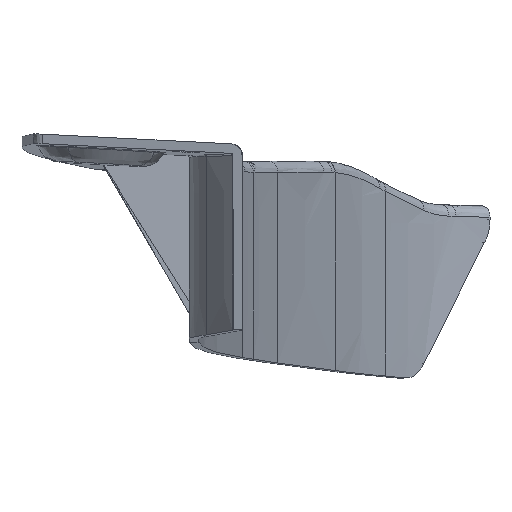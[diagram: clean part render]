
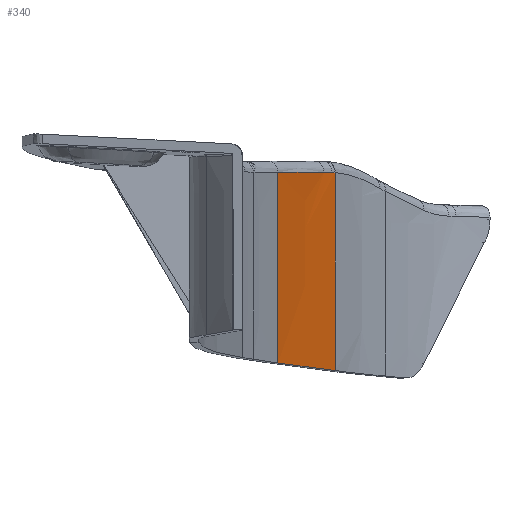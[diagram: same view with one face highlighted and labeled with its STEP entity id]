
A CAD part, front view. The second image highlights one B-rep face of the part: STEP entity #340.
In plain terms, the highlighted face is a extrusion surface.
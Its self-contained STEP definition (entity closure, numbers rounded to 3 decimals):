
#74=SURFACE_OF_LINEAR_EXTRUSION('',#1009,#2628);
#340=ADVANCED_FACE('',(#501),#74,.F.);
#501=FACE_OUTER_BOUND('',#667,.T.);
#667=EDGE_LOOP('',(#1748,#1749,#1750,#1751,#1752,#1753,#1754));
#867=B_SPLINE_CURVE_WITH_KNOTS('',3,(#7128,#7129,#7130,#7131,#7132,#7133,
#7134,#7135,#7136,#7137,#7138,#7139,#7140,#7141,#7142,#7143,#7144,#7145,
#7146,#7147,#7148,#7149,#7150,#7151,#7152,#7153,#7154,#7155,#7156,#7157,
#7158,#7159,#7160),.UNSPECIFIED.,.F.,.F.,(4,2,2,2,2,2,1,1,2,2,2,2,2,1,2,
2,2,4),(0.,0.5,0.563,0.594,0.602,
0.609,0.617,0.621,0.623,0.625,
0.688,0.719,0.734,0.742,
0.746,0.75,0.875,1.),.UNSPECIFIED.);
#981=B_SPLINE_CURVE_WITH_KNOTS('',3,(#13059,#13060,#13061,#13062,#13063,
#13064,#13065,#13066,#13067,#13068,#13069,#13070),.UNSPECIFIED.,.F.,.F.,
(4,2,2,2,2,4),(0.,0.062,0.125,0.25,
0.5,1.),.UNSPECIFIED.);
#984=B_SPLINE_CURVE_WITH_KNOTS('',3,(#13304,#13305,#13306,#13307),
 .UNSPECIFIED.,.F.,.F.,(4,4),(0.,1.),.UNSPECIFIED.);
#986=B_SPLINE_CURVE_WITH_KNOTS('',5,(#13372,#13373,#13374,#13375,#13376,
#13377,#13378,#13379,#13380,#13381,#13382,#13383),.UNSPECIFIED.,.F.,.F.,
(6,3,3,6),(0.,0.089,0.393,1.),.UNSPECIFIED.);
#1008=B_SPLINE_CURVE_WITH_KNOTS('',5,(#15282,#15283,#15284,#15285,#15286,
#15287),.UNSPECIFIED.,.F.,.F.,(6,6),(0.,1.),.UNSPECIFIED.);
#1009=B_SPLINE_CURVE_WITH_KNOTS('',5,(#15290,#15291,#15292,#15293,#15294,
#15295,#15296,#15297,#15298,#15299,#15300,#15301,#15302,#15303,#15304,#15305,
#15306,#15307,#15308,#15309,#15310,#15311,#15312,#15313),.UNSPECIFIED.,
 .F.,.F.,(6,3,3,3,3,3,3,6),(0.,0.016,0.031,0.063,
0.125,0.25,0.5,1.),.UNSPECIFIED.);
#1748=ORIENTED_EDGE('',*,*,#2464,.T.);
#1749=ORIENTED_EDGE('',*,*,#2437,.T.);
#1750=ORIENTED_EDGE('',*,*,#2440,.T.);
#1751=ORIENTED_EDGE('',*,*,#2442,.T.);
#1752=ORIENTED_EDGE('',*,*,#2463,.F.);
#1753=ORIENTED_EDGE('',*,*,#2303,.T.);
#1754=ORIENTED_EDGE('',*,*,#2465,.T.);
#1993=VERTEX_POINT('',#7127);
#1994=VERTEX_POINT('',#7161);
#2068=VERTEX_POINT('',#13058);
#2069=VERTEX_POINT('',#13071);
#2070=VERTEX_POINT('',#13303);
#2071=VERTEX_POINT('',#13371);
#2079=VERTEX_POINT('',#15288);
#2303=EDGE_CURVE('',#1994,#1993,#867,.T.);
#2437=EDGE_CURVE('',#2069,#2068,#981,.T.);
#2440=EDGE_CURVE('',#2068,#2070,#984,.T.);
#2442=EDGE_CURVE('',#2070,#2071,#986,.T.);
#2463=EDGE_CURVE('',#1994,#2071,#2545,.T.);
#2464=EDGE_CURVE('',#2079,#2069,#1008,.T.);
#2465=EDGE_CURVE('',#1993,#2079,#2546,.T.);
#2545=LINE('',#15263,#2625);
#2546=LINE('',#15289,#2627);
#2625=VECTOR('',#2875,1.);
#2627=VECTOR('',#2877,1.);
#2628=VECTOR('',#2878,1.);
#2875=DIRECTION('',(0.,0.,1.));
#2877=DIRECTION('',(0.,0.,1.));
#2878=DIRECTION('',(0.,0.,1.));
#7127=CARTESIAN_POINT('',(1323.568,-583.526,254.645));
#7128=CARTESIAN_POINT('',(1308.505,-619.64,256.647));
#7129=CARTESIAN_POINT('',(1310.664,-613.801,256.337));
#7130=CARTESIAN_POINT('',(1313.012,-607.773,256.004));
#7131=CARTESIAN_POINT('',(1315.844,-600.943,255.611));
#7132=CARTESIAN_POINT('',(1316.152,-600.207,255.569));
#7133=CARTESIAN_POINT('',(1316.664,-598.991,255.498));
#7134=CARTESIAN_POINT('',(1316.833,-598.589,255.476));
#7135=CARTESIAN_POINT('',(1317.043,-598.096,255.446));
#7136=CARTESIAN_POINT('',(1317.085,-597.998,255.44));
#7137=CARTESIAN_POINT('',(1317.168,-597.8,255.428));
#7138=CARTESIAN_POINT('',(1317.186,-597.758,255.426));
#7139=CARTESIAN_POINT('',(1317.258,-597.591,255.416));
#7140=CARTESIAN_POINT('',(1317.32,-597.444,255.408));
#7141=CARTESIAN_POINT('',(1317.409,-597.236,255.397));
#7142=CARTESIAN_POINT('',(1317.45,-597.139,255.392));
#7143=CARTESIAN_POINT('',(1317.479,-597.073,255.389));
#7144=CARTESIAN_POINT('',(1317.507,-597.007,255.385));
#7145=CARTESIAN_POINT('',(1317.551,-596.905,255.38));
#7146=CARTESIAN_POINT('',(1317.733,-596.478,255.357));
#7147=CARTESIAN_POINT('',(1318.221,-595.347,255.295));
#7148=CARTESIAN_POINT('',(1318.42,-594.889,255.27));
#7149=CARTESIAN_POINT('',(1318.773,-594.079,255.226));
#7150=CARTESIAN_POINT('',(1318.9,-593.789,255.21));
#7151=CARTESIAN_POINT('',(1319.104,-593.324,255.185));
#7152=CARTESIAN_POINT('',(1319.209,-593.083,255.172));
#7153=CARTESIAN_POINT('',(1319.32,-592.832,255.158));
#7154=CARTESIAN_POINT('',(1319.396,-592.661,255.149));
#7155=CARTESIAN_POINT('',(1319.452,-592.534,255.142));
#7156=CARTESIAN_POINT('',(1320.136,-590.985,255.057));
#7157=CARTESIAN_POINT('',(1320.809,-589.487,254.974));
#7158=CARTESIAN_POINT('',(1322.174,-586.5,254.81));
#7159=CARTESIAN_POINT('',(1322.899,-585.025,254.728));
#7160=CARTESIAN_POINT('',(1323.568,-583.526,254.645));
#7161=CARTESIAN_POINT('',(1308.505,-619.64,256.647));
#13058=CARTESIAN_POINT('',(1322.779,-585.206,306.823));
#13059=CARTESIAN_POINT('',(1323.557,-583.551,306.807));
#13060=CARTESIAN_POINT('',(1323.554,-583.557,306.807));
#13061=CARTESIAN_POINT('',(1323.543,-583.58,306.807));
#13062=CARTESIAN_POINT('',(1323.507,-583.656,306.809));
#13063=CARTESIAN_POINT('',(1323.465,-583.745,306.81));
#13064=CARTESIAN_POINT('',(1323.416,-583.847,306.812));
#13065=CARTESIAN_POINT('',(1323.385,-583.915,306.813));
#13066=CARTESIAN_POINT('',(1323.289,-584.119,306.816));
#13067=CARTESIAN_POINT('',(1323.225,-584.255,306.818));
#13068=CARTESIAN_POINT('',(1323.033,-584.662,306.822));
#13069=CARTESIAN_POINT('',(1322.906,-584.934,306.823));
#13070=CARTESIAN_POINT('',(1322.779,-585.206,306.823));
#13071=CARTESIAN_POINT('',(1323.557,-583.551,306.807));
#13303=CARTESIAN_POINT('',(1320.67,-589.805,306.823));
#13304=CARTESIAN_POINT('',(1322.779,-585.206,306.823));
#13305=CARTESIAN_POINT('',(1322.066,-586.734,306.823));
#13306=CARTESIAN_POINT('',(1321.363,-588.267,306.823));
#13307=CARTESIAN_POINT('',(1320.67,-589.805,306.823));
#13371=CARTESIAN_POINT('',(1308.505,-619.64,306.823));
#13372=CARTESIAN_POINT('',(1320.67,-589.805,306.823));
#13373=CARTESIAN_POINT('',(1320.434,-590.328,306.823));
#13374=CARTESIAN_POINT('',(1320.199,-590.851,306.823));
#13375=CARTESIAN_POINT('',(1319.965,-591.375,306.823));
#13376=CARTESIAN_POINT('',(1318.938,-593.687,306.823));
#13377=CARTESIAN_POINT('',(1317.929,-596.007,306.823));
#13378=CARTESIAN_POINT('',(1317.159,-597.806,306.823));
#13379=CARTESIAN_POINT('',(1314.878,-603.215,306.823));
#13380=CARTESIAN_POINT('',(1312.684,-608.661,306.823));
#13381=CARTESIAN_POINT('',(1311.256,-612.307,306.823));
#13382=CARTESIAN_POINT('',(1309.863,-615.967,306.823));
#13383=CARTESIAN_POINT('',(1308.505,-619.64,306.823));
#15263=CARTESIAN_POINT('',(1308.505,-619.64,291.323));
#15282=CARTESIAN_POINT('',(1323.568,-583.526,306.807));
#15283=CARTESIAN_POINT('',(1323.566,-583.531,306.807));
#15284=CARTESIAN_POINT('',(1323.564,-583.536,306.807));
#15285=CARTESIAN_POINT('',(1323.561,-583.541,306.807));
#15286=CARTESIAN_POINT('',(1323.559,-583.546,306.807));
#15287=CARTESIAN_POINT('',(1323.557,-583.551,306.807));
#15288=CARTESIAN_POINT('',(1323.568,-583.526,306.807));
#15289=CARTESIAN_POINT('',(1323.568,-583.526,291.323));
#15290=CARTESIAN_POINT('',(1323.568,-583.526,309.823));
#15291=CARTESIAN_POINT('',(1323.518,-583.637,309.823));
#15292=CARTESIAN_POINT('',(1323.462,-583.746,309.823));
#15293=CARTESIAN_POINT('',(1323.412,-583.858,309.823));
#15294=CARTESIAN_POINT('',(1323.308,-584.079,309.823));
#15295=CARTESIAN_POINT('',(1323.203,-584.3,309.823));
#15296=CARTESIAN_POINT('',(1323.151,-584.411,309.823));
#15297=CARTESIAN_POINT('',(1322.995,-584.743,309.823));
#15298=CARTESIAN_POINT('',(1322.84,-585.075,309.823));
#15299=CARTESIAN_POINT('',(1322.736,-585.297,309.823));
#15300=CARTESIAN_POINT('',(1322.426,-585.962,309.823));
#15301=CARTESIAN_POINT('',(1322.118,-586.628,309.823));
#15302=CARTESIAN_POINT('',(1321.913,-587.072,309.823));
#15303=CARTESIAN_POINT('',(1321.301,-588.406,309.823));
#15304=CARTESIAN_POINT('',(1320.695,-589.743,309.823));
#15305=CARTESIAN_POINT('',(1320.294,-590.635,309.823));
#15306=CARTESIAN_POINT('',(1319.1,-593.316,309.823));
#15307=CARTESIAN_POINT('',(1317.929,-596.007,309.823));
#15308=CARTESIAN_POINT('',(1317.159,-597.806,309.823));
#15309=CARTESIAN_POINT('',(1314.878,-603.215,309.823));
#15310=CARTESIAN_POINT('',(1312.684,-608.661,309.823));
#15311=CARTESIAN_POINT('',(1311.256,-612.307,309.823));
#15312=CARTESIAN_POINT('',(1309.863,-615.967,309.823));
#15313=CARTESIAN_POINT('',(1308.505,-619.64,309.823));
